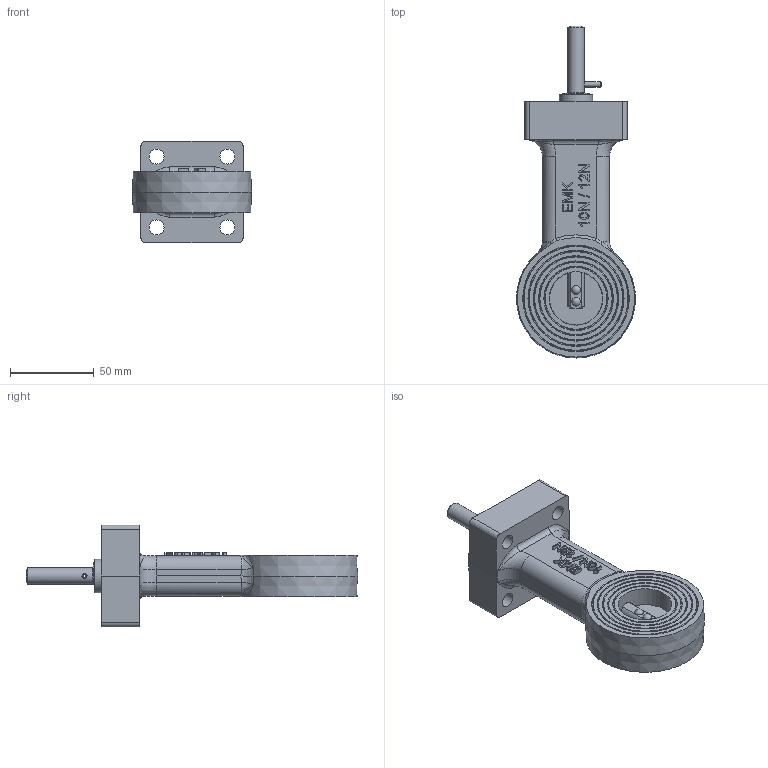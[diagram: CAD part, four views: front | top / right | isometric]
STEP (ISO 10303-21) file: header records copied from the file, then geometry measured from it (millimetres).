
FILE_DESCRIPTION((''),'2;1');
FILE_NAME('G:\CAD-Download\MRK\MRK Ro We\DN 25\MRK Ro We 10N-4.00.32.stp','2010-08-18T09:59:38',('da'),(''),'Autodesk Inventor 2008','Autodesk Inventor 2008','');
FILE_SCHEMA(('AUTOMOTIVE_DESIGN { 1 0 10303 214 1 1 1 1 }'));
Length unit declared in the file: millimetre
Products named in the file (1): Bauteil6
Bounding box: 71.3 x 198.65 x 61 mm (x, y, z)
Volume: 218968.8 mm3; surface area: 46215.1 mm2
Topology: 1 solids, 1 shells, 383 faces, 987 edges, 637 vertices
Faces by surface type: plane 211, bspline 85, cylinder 58, cone 21, sphere 4, torus 4
Full cylindrical faces by diameter (mm): 2 x2, 3 x2, 8 x2, 10 x2, 20 x1, 29.9 x1, 31.4 x1, 31.7 x1, 32 x1
Entity records: 13664 total; most frequent: CARTESIAN_POINT 4636, ORIENTED_EDGE 1832, DIRECTION 1600, EDGE_CURVE 916, VERTEX_POINT 618, VECTOR 566, LINE 566, AXIS2_PLACEMENT_3D 517
